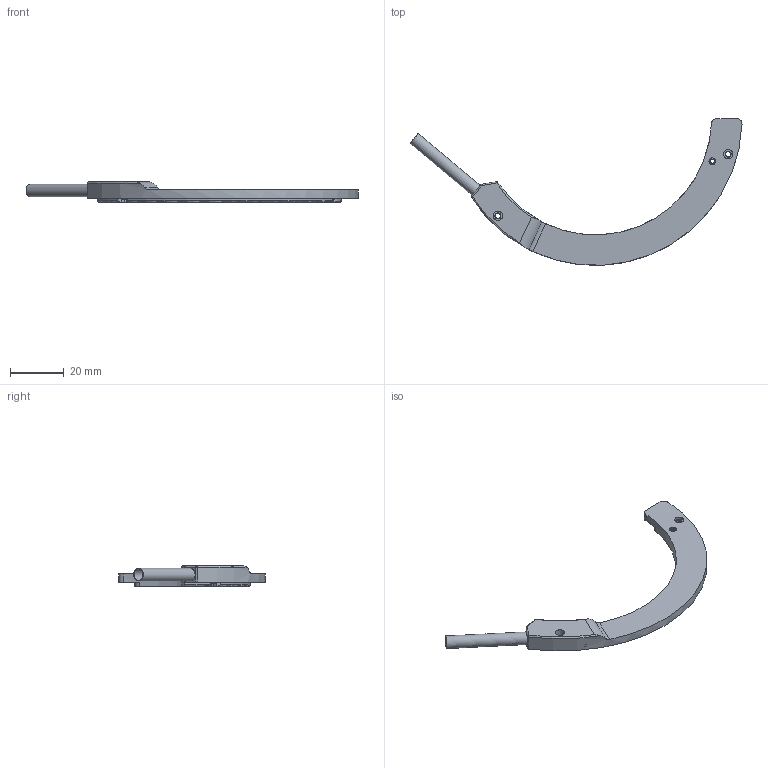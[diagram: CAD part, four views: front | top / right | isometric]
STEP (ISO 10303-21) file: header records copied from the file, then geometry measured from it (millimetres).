
FILE_DESCRIPTION(/* description */ ('QTR DHM'),/* implementation_level */ '2;1');
FILE_NAME(/* name */ 'DIGITAL HALL MODULE QTR 133',/* time_stamp */ '2019-05-16T16:04:56+02:00',/* author */ ('Tecnotion'),/* organization */ ('Tecnotion'),/* preprocessor_version */ 'ST-DEVELOPER v16.7',/* originating_system */ 'DEX',/* authorisation */ $);
FILE_SCHEMA (('AUTOMOTIVE_DESIGN {1 0 10303 214 3 1 1}'));
Length unit declared in the file: millimetre
Products named in the file (3): 1082341_190502; Resin QTR DHM 133_190327; 1081354_190205
Assembly tree (2 placements, depth 2):
  1082341_190502
    Resin QTR DHM 133_190327
    1081354_190205
Bounding box: 122.99 x 54.4 x 7.5 mm (x, y, z)
Volume: 7087.1 mm3; surface area: 8188.3 mm2
Topology: 100 solids, 100 shells, 641 faces, 1299 edges, 864 vertices
Faces by surface type: plane 580, cylinder 53, torus 6, sphere 2
Full cylindrical faces by diameter (mm): 1 x6, 1.567 x3, 2 x3, 2.2 x2, 2.5 x1, 2.8 x2, 3 x2, 3.5 x2, 4.3 x1, 4.35 x2, 4.7 x1
Entity records: 17377 total; most frequent: CARTESIAN_POINT 2813, DIRECTION 2654, ORIENTED_EDGE 2532, EDGE_CURVE 1266, LINE 1140, VECTOR 1140, VERTEX_POINT 858, AXIS2_PLACEMENT_3D 757
